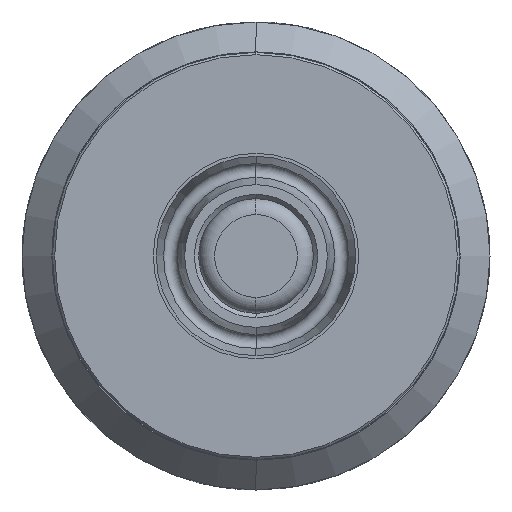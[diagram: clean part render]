
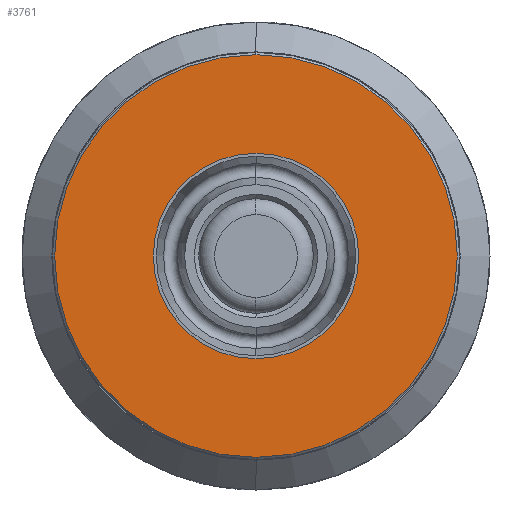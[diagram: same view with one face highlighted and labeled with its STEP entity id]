
A CAD part, left-side view. The second image highlights one B-rep face of the part: STEP entity #3761.
In plain terms, the highlighted planar face has unit normal (-1, 0, 0).
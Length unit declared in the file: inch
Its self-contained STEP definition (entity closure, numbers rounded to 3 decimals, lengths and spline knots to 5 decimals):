
#94 = DIRECTION ( 'NONE',  ( 0., 0., -1. ) ) ;
#116 = CARTESIAN_POINT ( 'NONE',  ( -1.945, 0., 0. ) ) ;
#117 = DIRECTION ( 'NONE',  ( 1., 0., 0. ) ) ;
#119 = CARTESIAN_POINT ( 'NONE',  ( -1.945, 0., 0. ) ) ;
#129 = DIRECTION ( 'NONE',  ( 0., 0., -1. ) ) ;
#130 = DIRECTION ( 'NONE',  ( 1., 0., 0. ) ) ;
#131 = CARTESIAN_POINT ( 'NONE',  ( -1.945, 0., 0. ) ) ;
#147 = DIRECTION ( 'NONE',  ( 1., 0., 0. ) ) ;
#148 = DIRECTION ( 'NONE',  ( 0., 0., -1. ) ) ;
#155 = CARTESIAN_POINT ( 'NONE',  ( -1.945, 0., 0. ) ) ;
#156 = DIRECTION ( 'NONE',  ( 1., 0., 0. ) ) ;
#158 = DIRECTION ( 'NONE',  ( 0., 0., -1. ) ) ;
#1709 = ORIENTED_EDGE ( 'NONE', *, *, #3707, .T. ) ;
#1710 = ORIENTED_EDGE ( 'NONE', *, *, #3711, .T. ) ;
#1713 = ORIENTED_EDGE ( 'NONE', *, *, #3713, .F. ) ;
#1725 = ORIENTED_EDGE ( 'NONE', *, *, #3704, .F. ) ;
#2077 = CARTESIAN_POINT ( 'NONE',  ( -1.945, 0., 0.225 ) ) ;
#2088 = VERTEX_POINT ( 'NONE', #2077 ) ;
#2091 = CARTESIAN_POINT ( 'NONE',  ( -1.945, 0., -0.441 ) ) ;
#2130 = CARTESIAN_POINT ( 'NONE',  ( -1.945, 0., -0.225 ) ) ;
#2131 = CARTESIAN_POINT ( 'NONE',  ( -1.945, 0., 0.441 ) ) ;
#2168 = EDGE_LOOP ( 'NONE', ( #1710, #1709 ) ) ;
#2261 = EDGE_LOOP ( 'NONE', ( #1725, #1713 ) ) ;
#2377 = VERTEX_POINT ( 'NONE', #2130 ) ;
#2378 = VERTEX_POINT ( 'NONE', #2131 ) ;
#2380 = VERTEX_POINT ( 'NONE', #2091 ) ;
#2541 = FACE_BOUND ( 'NONE', #2168, .T. ) ;
#2561 = CARTESIAN_POINT ( 'NONE',  ( -1.945, 0., 0. ) ) ;
#2621 = DIRECTION ( 'NONE',  ( 0., 0., -1. ) ) ;
#2623 = DIRECTION ( 'NONE',  ( 1., 0., 0. ) ) ;
#2643 = FACE_OUTER_BOUND ( 'NONE', #2261, .T. ) ;
#2655 = PLANE ( 'NONE',  #5249 ) ;
#3704 = EDGE_CURVE ( 'NONE', #2380, #2378, #4928, .T. ) ;
#3707 = EDGE_CURVE ( 'NONE', #2088, #2377, #4982, .T. ) ;
#3711 = EDGE_CURVE ( 'NONE', #2377, #2088, #4937, .T. ) ;
#3713 = EDGE_CURVE ( 'NONE', #2378, #2380, #4983, .T. ) ;
#3761 = ADVANCED_FACE ( 'NONE', ( #2643, #2541 ), #2655, .F. ) ;
#4928 = CIRCLE ( 'NONE', #4932, 0.441 ) ;
#4932 = AXIS2_PLACEMENT_3D ( 'NONE', #131, #130, #129 ) ;
#4935 = AXIS2_PLACEMENT_3D ( 'NONE', #119, #147, #148 ) ;
#4937 = CIRCLE ( 'NONE', #4939, 0.225 ) ;
#4939 = AXIS2_PLACEMENT_3D ( 'NONE', #155, #156, #158 ) ;
#4942 = AXIS2_PLACEMENT_3D ( 'NONE', #116, #117, #94 ) ;
#4982 = CIRCLE ( 'NONE', #4935, 0.225 ) ;
#4983 = CIRCLE ( 'NONE', #4942, 0.441 ) ;
#5249 = AXIS2_PLACEMENT_3D ( 'NONE', #2561, #2623, #2621 ) ;
